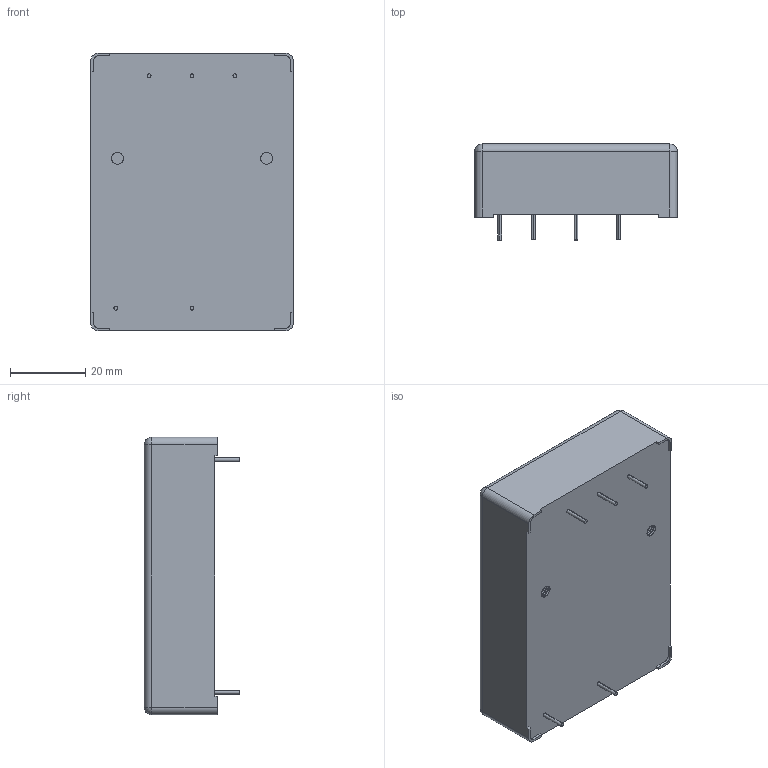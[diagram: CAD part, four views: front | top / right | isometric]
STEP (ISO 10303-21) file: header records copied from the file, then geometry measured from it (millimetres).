
FILE_DESCRIPTION (( 'STEP AP203' ), '1' );
FILE_NAME ('TMP 15 Dual Output Symmetric.STEP', '2020-11-20T00:58:34', ( '' ), ( '' ), 'SwSTEP 2.0', 'SolidWorks 2020', '' );
FILE_SCHEMA (( 'CONFIG_CONTROL_DESIGN' ));
Length unit declared in the file: millimetre
Products named in the file (1): TMP 15 Dual Output Symmetric
Bounding box: 54 x 25.5 x 74 mm (x, y, z)
Volume: 74790.7 mm3; surface area: 12861.4 mm2
Topology: 1 solids, 1 shells, 103 faces, 264 edges, 166 vertices
Faces by surface type: cylinder 54, plane 37, bspline 8, sphere 4
Entity records: 5668 total; most frequent: CARTESIAN_POINT 3299, ORIENTED_EDGE 520, DIRECTION 440, EDGE_CURVE 260, VERTEX_POINT 166, AXIS2_PLACEMENT_3D 152, VECTOR 136, LINE 136
